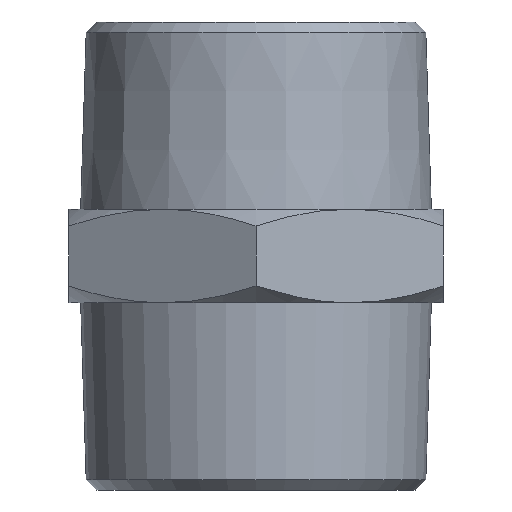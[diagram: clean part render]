
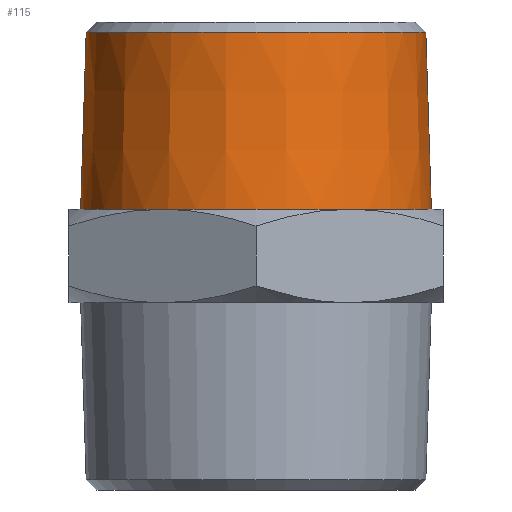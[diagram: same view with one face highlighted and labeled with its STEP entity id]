
A CAD part, left-side view. The second image highlights one B-rep face of the part: STEP entity #115.
In plain terms, the highlighted conical face has half-angle 1.79 degrees and reference radius 16.581 mm.
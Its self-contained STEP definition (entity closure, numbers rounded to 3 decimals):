
#73=CARTESIAN_POINT('',(0.,-16.331,21.5));
#74=VERTEX_POINT('',#73);
#75=CARTESIAN_POINT('',(0.,0.,21.5));
#76=DIRECTION('',(0.0,0.0,1.0));
#77=DIRECTION('',(0.0,1.0,0.0));
#78=AXIS2_PLACEMENT_3D('',#75,#76,#77);
#79=CIRCLE('',#78,16.331);
#80=EDGE_CURVE('',#74,#74,#79,.T.);
#96=CARTESIAN_POINT('',(0.0,0.,13.5));
#97=DIRECTION('',(0.0,0.,-1.0));
#98=DIRECTION('',(0.0,-1.0,0.0));
#99=AXIS2_PLACEMENT_3D('',#96,#97,#98);
#100=CONICAL_SURFACE('',#99,16.581,1.79);
#101=CARTESIAN_POINT('',(0.0,-16.862,4.5));
#102=VERTEX_POINT('',#101);
#103=CARTESIAN_POINT('',(0.0,0.,4.5));
#104=DIRECTION('',(0.0,0.0,-1.0));
#105=DIRECTION('',(0.0,-1.0,0.0));
#106=AXIS2_PLACEMENT_3D('',#103,#104,#105);
#107=CIRCLE('',#106,16.862);
#108=EDGE_CURVE('',#102,#102,#107,.T.);
#109=ORIENTED_EDGE('',*,*,#108,.F.);
#110=EDGE_LOOP('',(#109));
#111=FACE_OUTER_BOUND('',#110,.T.);
#112=ORIENTED_EDGE('',*,*,#80,.F.);
#113=EDGE_LOOP('',(#112));
#114=FACE_BOUND('',#113,.T.);
#115=ADVANCED_FACE('',(#111,#114),#100,.T.);
